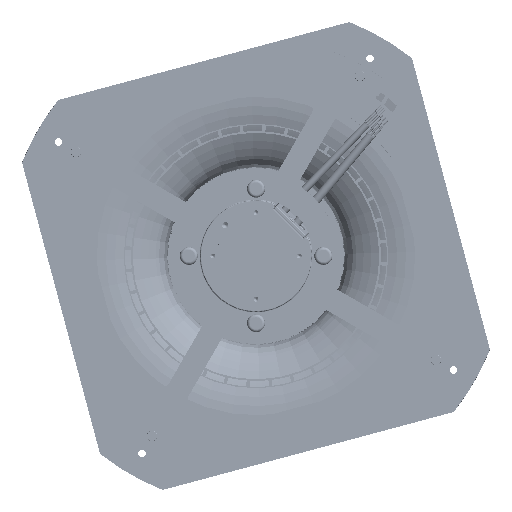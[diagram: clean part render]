
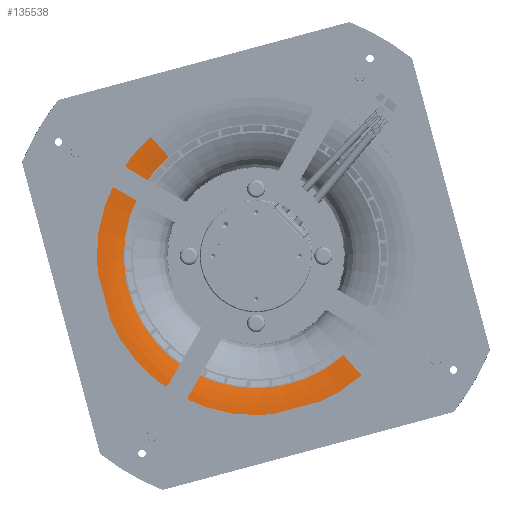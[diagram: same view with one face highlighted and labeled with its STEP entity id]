
A CAD part, front view. The second image highlights one B-rep face of the part: STEP entity #135538.
In plain terms, the highlighted toroidal (fillet/blend) face has major radius 109.531 mm and minor radius 72.371 mm.
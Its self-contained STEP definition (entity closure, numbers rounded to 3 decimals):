
#132613=CARTESIAN_POINT('',(0.,3.061,0.));
#132614=DIRECTION('',(0.,-1.,0.));
#132615=DIRECTION('',(1.,0.,0.));
#132616=AXIS2_PLACEMENT_3D('',#132613,#132614,#132615);
#132618=CARTESIAN_POINT('',(-109.531,72.309,
0.));
#132619=DIRECTION('',(0.,0.,-1.));
#132620=DIRECTION('',(0.291,-0.957,0.));
#132621=AXIS2_PLACEMENT_3D('',#132618,#132619,#132620);
#132628=CARTESIAN_POINT('',(109.531,72.309,
0.));
#132629=DIRECTION('',(0.,0.,1.));
#132630=DIRECTION('',(-0.291,-0.957,0.));
#132631=AXIS2_PLACEMENT_3D('',#132628,#132629,#132630);
#132647=CARTESIAN_POINT('',(0.,0.,0.));
#132648=DIRECTION('',(0.,-1.,0.));
#132649=DIRECTION('',(1.,0.,0.));
#132650=AXIS2_PLACEMENT_3D('',#132647,#132648,#132649);
#134497=CARTESIAN_POINT('',(-88.5,3.061,0.));
#134498=CARTESIAN_POINT('',(88.5,3.061,0.));
#134499=VERTEX_POINT('',#134497);
#134500=VERTEX_POINT('',#134498);
#134501=CARTESIAN_POINT('',(106.521,0.,
0.));
#134502=VERTEX_POINT('',#134501);
#134503=CARTESIAN_POINT('',(-106.521,0.,0.));
#134504=VERTEX_POINT('',#134503);
#135524=CARTESIAN_POINT('',(0.,72.309,0.));
#135525=DIRECTION('',(0.,-1.,0.));
#135526=DIRECTION('',(-1.,0.,0.));
#135527=AXIS2_PLACEMENT_3D('',#135524,#135525,#135526);
#135528=TOROIDAL_SURFACE('',#135527,109.531,72.371);
#135529=ORIENTED_EDGE('',*,*,#135514,.T.);
#135531=ORIENTED_EDGE('',*,*,#135530,.T.);
#135533=ORIENTED_EDGE('',*,*,#135532,.F.);
#135535=ORIENTED_EDGE('',*,*,#135534,.F.);
#135536=EDGE_LOOP('',(#135529,#135531,#135533,#135535));
#135537=FACE_OUTER_BOUND('',#135536,.F.);
#135538=ADVANCED_FACE('',(#135537),#135528,.T.);
#132617=CIRCLE('',#132616,88.5);
#132622=CIRCLE('',#132621,72.371);
#132632=CIRCLE('',#132631,72.371);
#132651=CIRCLE('',#132650,106.521);
#135514=EDGE_CURVE('',#134500,#134499,#132617,.T.);
#135530=EDGE_CURVE('',#134499,#134504,#132622,.T.);
#135532=EDGE_CURVE('',#134502,#134504,#132651,.T.);
#135534=EDGE_CURVE('',#134500,#134502,#132632,.T.);
